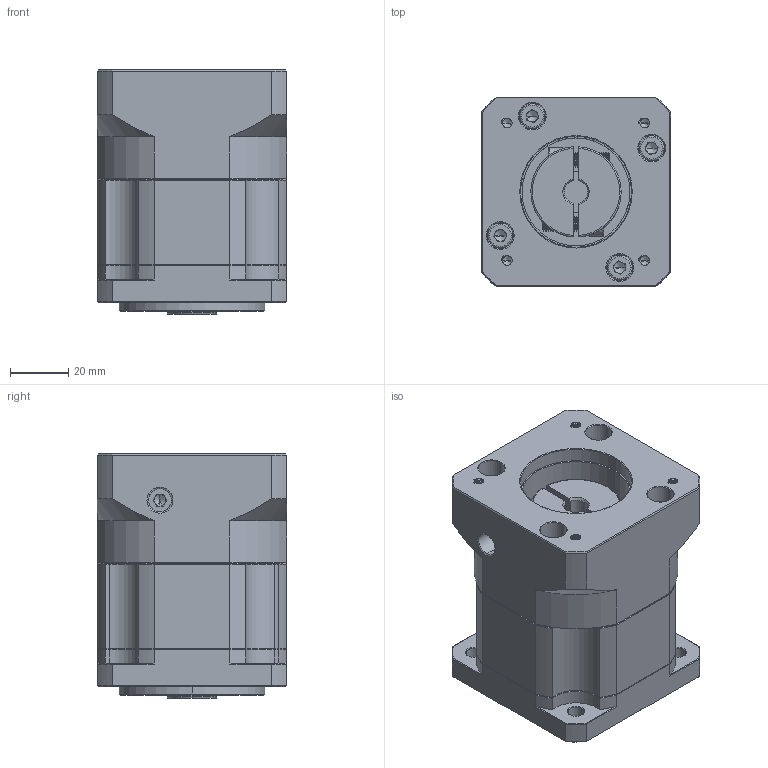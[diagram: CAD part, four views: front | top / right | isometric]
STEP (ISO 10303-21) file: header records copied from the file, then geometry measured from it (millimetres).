
FILE_DESCRIPTION (( 'STEP AP214' ), '1' );
FILE_NAME ('ZB60-K10-L1-8-38.1-47.14X47.14-M4.STEP', '2022-04-16T15:42:34', ( '' ), ( 'Microsoft' ), 'SwSTEP 2.0', 'SolidWorks 2016', '' );
FILE_SCHEMA (( 'AUTOMOTIVE_DESIGN' ));
Length unit declared in the file: millimetre
Products named in the file (1): ZB60-K10-L1-8-38.1-47.14X47.14-M4
Bounding box: 65 x 65 x 84 mm (x, y, z)
Volume: 267221.7 mm3; surface area: 53326 mm2
Topology: 6 solids, 6 shells, 1823 faces, 4835 edges, 3098 vertices
Faces by surface type: plane 876, cylinder 342, bspline 292, cone 279, torus 34
Entity records: 93041 total; most frequent: CARTESIAN_POINT 29831, ORIENTED_EDGE 9614, DIRECTION 7965, EDGE_CURVE 4807, VERTEX_POINT 3098, LINE 2961, VECTOR 2961, AXIS2_PLACEMENT_3D 2502
